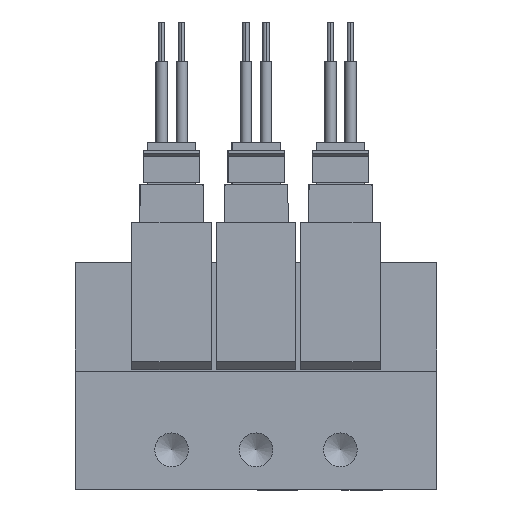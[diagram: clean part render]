
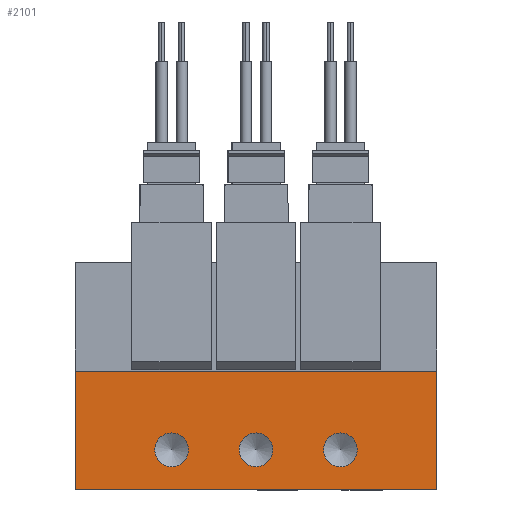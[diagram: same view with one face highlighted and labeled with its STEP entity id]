
A CAD part, front view. The second image highlights one B-rep face of the part: STEP entity #2101.
In plain terms, the highlighted planar face has unit normal (0, -1, 0).
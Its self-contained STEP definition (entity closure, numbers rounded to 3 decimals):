
#2101=ADVANCED_FACE('',(#3378,#3379,#3380,#3381),#3382,.F.);
#3378=FACE_BOUND('',#6027,.T.);
#3379=FACE_BOUND('',#6028,.T.);
#3380=FACE_BOUND('',#6029,.T.);
#3381=FACE_OUTER_BOUND('',#6030,.T.);
#3382=PLANE('',#6031);
#6027=EDGE_LOOP('',(#9364));
#6028=EDGE_LOOP('',(#9365));
#6029=EDGE_LOOP('',(#9366));
#6030=EDGE_LOOP('',(#9367,#9368,#9369,#9370));
#6031=AXIS2_PLACEMENT_3D('',#9371,#9372,#9373);
#9364=ORIENTED_EDGE('',*,*,#19437,.F.);
#9365=ORIENTED_EDGE('',*,*,#19459,.F.);
#9366=ORIENTED_EDGE('',*,*,#19460,.F.);
#9367=ORIENTED_EDGE('',*,*,#19461,.F.);
#9368=ORIENTED_EDGE('',*,*,#19462,.F.);
#9369=ORIENTED_EDGE('',*,*,#19463,.T.);
#9370=ORIENTED_EDGE('',*,*,#19457,.T.);
#9371=CARTESIAN_POINT('',(-45.0,0.,14.8));
#9372=DIRECTION('',(0.0,1.0,0.));
#9373=DIRECTION('',(0.0,0.,1.0));
#19437=EDGE_CURVE('',#22711,#22711,#22712,.T.);
#19457=EDGE_CURVE('',#22748,#22746,#22749,.T.);
#19459=EDGE_CURVE('',#22751,#22751,#22752,.T.);
#19460=EDGE_CURVE('',#22753,#22753,#22754,.T.);
#19461=EDGE_CURVE('',#22755,#22746,#22756,.T.);
#19462=EDGE_CURVE('',#22757,#22755,#22758,.T.);
#19463=EDGE_CURVE('',#22757,#22748,#22759,.T.);
#22711=VERTEX_POINT('',#28245);
#22712=CIRCLE('',#28246,2.1);
#22746=VERTEX_POINT('',#28293);
#22748=VERTEX_POINT('',#28296);
#22749=LINE('',#28297,#28298);
#22751=VERTEX_POINT('',#28301);
#22752=CIRCLE('',#28302,2.1);
#22753=VERTEX_POINT('',#28303);
#22754=CIRCLE('',#28304,2.1);
#22755=VERTEX_POINT('',#28305);
#22756=LINE('',#28306,#28307);
#22757=VERTEX_POINT('',#28308);
#22758=LINE('',#28309,#28310);
#22759=LINE('',#28311,#28312);
#28245=CARTESIAN_POINT('',(-33.0,0.,2.9));
#28246=AXIS2_PLACEMENT_3D('',#36192,#36193,#36194);
#28293=CARTESIAN_POINT('',(0.0,0.0,0.0));
#28296=CARTESIAN_POINT('',(-45.0,0.0,0.0));
#28297=CARTESIAN_POINT('',(-45.0,0.0,0.0));
#28298=VECTOR('',#36224,1.0);
#28301=CARTESIAN_POINT('',(-22.5,0.,2.9));
#28302=AXIS2_PLACEMENT_3D('',#36226,#36227,#36228);
#28303=CARTESIAN_POINT('',(-12.0,0.,2.9));
#28304=AXIS2_PLACEMENT_3D('',#36229,#36230,#36231);
#28305=CARTESIAN_POINT('',(0.0,0.,14.8));
#28306=CARTESIAN_POINT('',(0.0,0.,14.8));
#28307=VECTOR('',#36232,1.0);
#28308=CARTESIAN_POINT('',(-45.0,0.,14.8));
#28309=CARTESIAN_POINT('',(-45.0,0.,14.8));
#28310=VECTOR('',#36233,1.0);
#28311=CARTESIAN_POINT('',(-45.0,0.,14.8));
#28312=VECTOR('',#36234,1.0);
#36192=CARTESIAN_POINT('',(-33.0,0.0,5.0));
#36193=DIRECTION('',(0.0,-1.0,0.));
#36194=DIRECTION('',(0.0,0.,-1.0));
#36224=DIRECTION('',(1.0,0.0,0.0));
#36226=CARTESIAN_POINT('',(-22.5,0.0,5.0));
#36227=DIRECTION('',(0.0,-1.0,0.));
#36228=DIRECTION('',(0.0,0.,-1.0));
#36229=CARTESIAN_POINT('',(-12.0,0.0,5.0));
#36230=DIRECTION('',(0.0,-1.0,0.));
#36231=DIRECTION('',(0.0,0.,-1.0));
#36232=DIRECTION('',(0.0,0.,-1.0));
#36233=DIRECTION('',(1.0,0.0,0.0));
#36234=DIRECTION('',(0.0,0.,-1.0));
